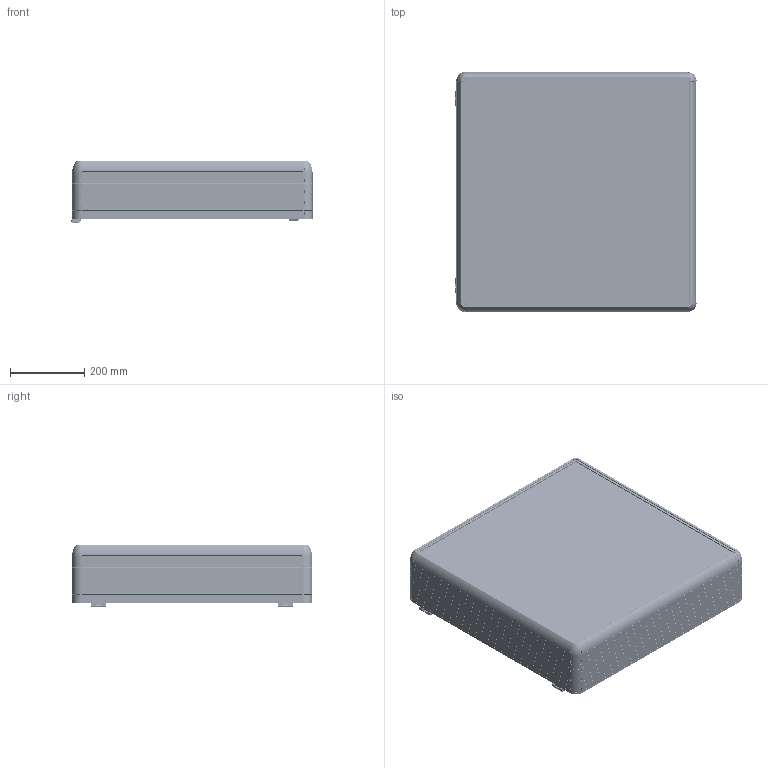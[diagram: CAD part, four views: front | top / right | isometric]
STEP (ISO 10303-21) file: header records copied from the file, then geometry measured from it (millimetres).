
FILE_DESCRIPTION (( 'STEP AP214' ), '1' );
FILE_NAME ('1500-0016.STEP', '2022-09-01T08:27:32', ( '' ), ( '' ), 'SwSTEP 2.0', 'SolidWorks 2022', '' );
FILE_SCHEMA (( 'AUTOMOTIVE_DESIGN' ));
Length unit declared in the file: millimetre
Products named in the file (5): ARKA_KAPAK_600X600; HPECO-150-001_595; ECO1500-0000; 600X600; 1500-0016
Assembly tree (10 placements, depth 2):
  1500-0016
    600X600
    ARKA_KAPAK_600X600
    HPECO-150-001_595  x4
    ECO1500-0000  x4
Bounding box: 649.03 x 647 x 169.15 mm (x, y, z)
Volume: 4188973.4 mm3; surface area: 3483010.1 mm2
Topology: 38 solids, 88 shells, 10453 faces, 27196 edges, 16478 vertices
Faces by surface type: plane 3445, cylinder 2868, bspline 2772, cone 766, torus 468, sphere 134
Entity records: 199523 total; most frequent: CARTESIAN_POINT 53610, ORIENTED_EDGE 23034, DIRECTION 19577, EDGE_CURVE 11517, AXIS2_PLACEMENT_3D 7286, VERTEX_POINT 7067, LINE 5005, VECTOR 5005
